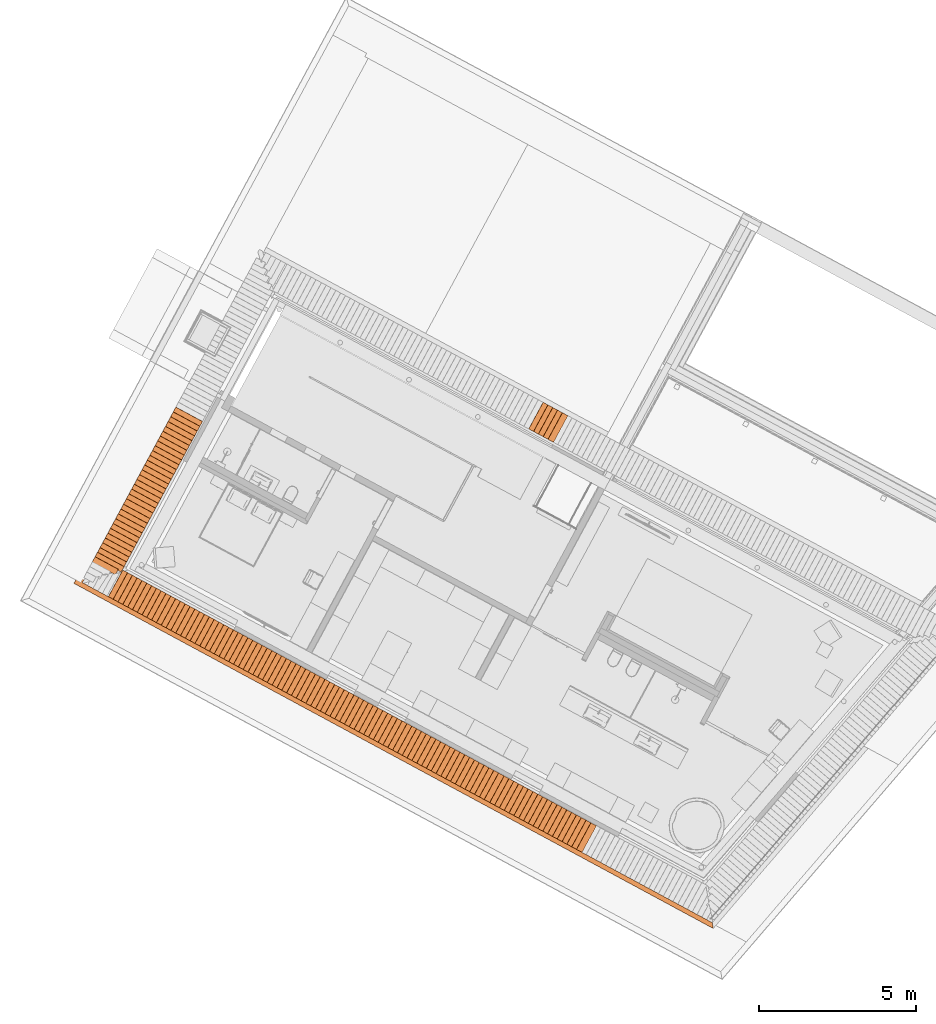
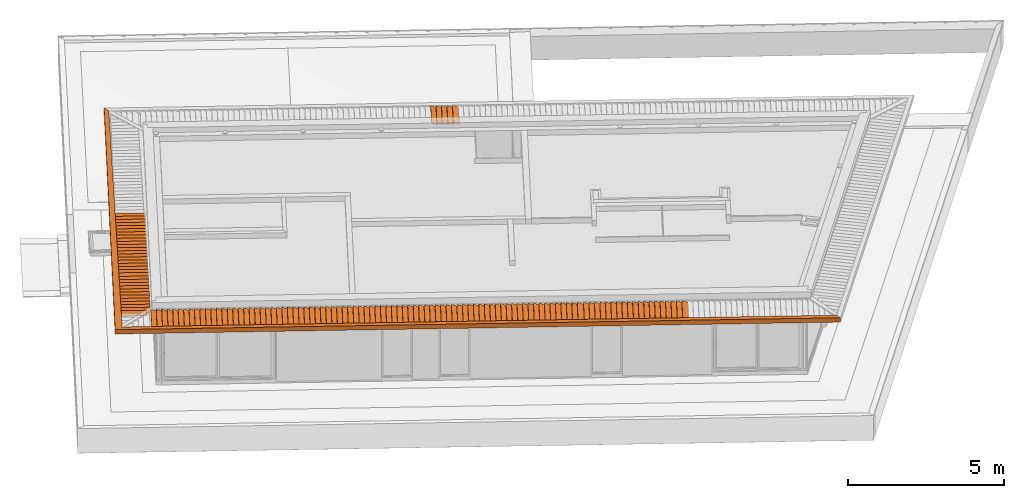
# One storey, part 35 of 48: 136 proxies.
"""IFC2X3 building model written with IfcOpenShell, lengths in metres."""

import ifcopenshell
import ifcopenshell.guid

model = None  # the IFC model being written
_history = None  # IfcOwnerHistory: only IFC2X3 demands one
_inside = {}  # id of a spatial element -> (the spatial element, [elements in it])
_under = {}  # id of a project, library or spatial element -> (it, [spatial elements below it])
_declared = {}  # id of a project -> (the project, [libraries it declares])
_typed = {}  # id of a type object -> (the type object, [elements of that type])
_made_of = {}  # id of a material, layer set ... -> (it, [elements and type objects made of it])


def new_model(schema):
    """Start an empty IFC model of exactly this schema.

    Asked for "IFC4X3", IfcOpenShell would pick the latest addendum, in which some entities
    have other attributes; the version numbers below select the first issue.
    IFC2X3 requires an IfcOwnerHistory on every rooted entity: one is made here for all.
    """
    global model, _history
    if schema == "IFC4X3":
        model = ifcopenshell.file(schema_version=(4, 3, 0, 0))
    else:
        model = ifcopenshell.file(schema=schema)
    _inside.clear()
    _under.clear()
    _declared.clear()
    _typed.clear()
    _made_of.clear()
    _history = None
    if model.schema == "IFC2X3":
        org = make("IfcOrganization", Name="unknown")
        user = make(
            "IfcPersonAndOrganization",
            ThePerson=make("IfcPerson", FamilyName="unknown"),
            TheOrganization=org,
        )
        app = make(
            "IfcApplication",
            ApplicationDeveloper=org,
            Version="unknown",
            ApplicationFullName="unknown",
            ApplicationIdentifier="unknown",
        )
        _history = make(
            "IfcOwnerHistory",
            OwningUser=user,
            OwningApplication=app,
            ChangeAction="ADDED",
            CreationDate=0,
        )
    return model


def make(cls, **values):
    """One entity of the class cls with the attributes given. An attribute that is None is left unset."""
    return model.create_entity(
        cls, **{name: value for name, value in values.items() if value is not None}
    )


def entity(cls, *values):
    """Any entity or typed value of the class cls, its attributes in the order of the schema. None: left unset."""
    e = model.create_entity(cls)
    for i, value in enumerate(values):
        if value is not None:
            e[i] = value
    return e


def rooted(cls, **values):
    """An entity with a GlobalId (a new one), such as an element, a storey or a relation."""
    return make(cls, GlobalId=ifcopenshell.guid.new(), OwnerHistory=_history, **values)


def si_unit(unit_type, name, prefix=None):
    """IfcSIUnit, for example si_unit("LENGTHUNIT", "METRE", prefix="MILLI")."""
    return make("IfcSIUnit", UnitType=unit_type, Prefix=prefix, Name=name)


def converted_unit(unit_type, name, factor, base, dimensions=None, offset=None):
    """IfcConversionBasedUnit, such as the inch: factor (a typed value) times the base unit."""
    return make(
        "IfcConversionBasedUnit"
        if offset is None
        else "IfcConversionBasedUnitWithOffset",
        ConversionOffset=offset,
        Dimensions=None
        if dimensions is None
        else entity("IfcDimensionalExponents", *dimensions),
        UnitType=unit_type,
        Name=name,
        ConversionFactor=make(
            "IfcMeasureWithUnit", ValueComponent=factor, UnitComponent=base
        ),
    )


def derived_unit(unit_type, elements):
    """IfcDerivedUnit: a product of units, each with its exponent."""
    return make(
        "IfcDerivedUnit",
        Elements=[
            make("IfcDerivedUnitElement", Unit=unit, Exponent=power)
            for unit, power in elements
        ],
        UnitType=unit_type,
    )


def money_unit(currency):
    """IfcMonetaryUnit."""
    return make("IfcMonetaryUnit", Currency=currency)


def assignment(units):
    """IfcUnitAssignment: the units of a project."""
    return None if units is None else make("IfcUnitAssignment", Units=units)


def point(xyz):
    """IfcCartesianPoint."""
    return None if xyz is None else make("IfcCartesianPoint", Coordinates=xyz)


def direction(xyz):
    """IfcDirection."""
    return None if xyz is None else make("IfcDirection", DirectionRatios=xyz)


def frame(location, z_axis=None, x_axis=None):
    """IfcAxis2Placement3D, a coordinate frame: its origin and axes. An axis left out is left unset."""
    return make(
        "IfcAxis2Placement3D",
        Location=point(location),
        Axis=direction(z_axis),
        RefDirection=direction(x_axis),
    )


def origin_with_axes():
    """The frame at (0, 0, 0) with the z axis (0, 0, 1) and the x axis (1, 0, 0) written out."""
    return frame((0.0, 0.0, 0.0), z_axis=(0.0, 0.0, 1.0), x_axis=(1.0, 0.0, 0.0))


def place(relative_to, where):
    """IfcLocalPlacement: puts the frame where relative to a parent placement (None: the world)."""
    return make(
        "IfcLocalPlacement", PlacementRelTo=relative_to, RelativePlacement=where
    )


def context(
    kind, dimensions, precision=None, world=None, true_north=None, identifier=None
):
    """IfcGeometricRepresentationContext, for example the 3D "Model" context."""
    return make(
        "IfcGeometricRepresentationContext",
        ContextIdentifier=identifier,
        ContextType=kind,
        CoordinateSpaceDimension=dimensions,
        Precision=precision,
        WorldCoordinateSystem=world,
        TrueNorth=true_north,
    )


def subcontext(parent, identifier, kind, view, scale=None):
    """IfcGeometricRepresentationSubContext, for example "Body" below "Model"."""
    return make(
        "IfcGeometricRepresentationSubContext",
        ContextIdentifier=identifier,
        ContextType=kind,
        ParentContext=parent,
        TargetScale=scale,
        TargetView=view,
    )


def project(units=None, contexts=None):
    """IfcProject with its units and contexts."""
    return rooted(
        "IfcProject",
        Name="project",
        RepresentationContexts=contexts,
        UnitsInContext=assignment(units),
    )


def spatial(cls, under=None, at=None, **own):
    """A site, building, storey or space (cls), placed at a placement, below another one or the project."""
    s = rooted(cls, ObjectPlacement=at, **own)
    if under is not None:
        _under.setdefault(under.id(), (under, []))[1].append(s)
    return s


def polyline(points):
    """IfcPolyline through the points."""
    return make("IfcPolyline", Points=[point(p) for p in points])


def outline(outer, holes=None, kind="AREA"):
    """IfcArbitraryClosedProfileDef: a profile drawn as a closed curve; with holes, ...WithVoids."""
    if holes is None:
        return make("IfcArbitraryClosedProfileDef", ProfileType=kind, OuterCurve=outer)
    return make(
        "IfcArbitraryProfileDefWithVoids",
        ProfileType=kind,
        OuterCurve=outer,
        InnerCurves=holes,
    )


def extrude(swept, where, along, depth):
    """IfcExtrudedAreaSolid: the profile swept, set in the frame where, extruded along a direction by depth."""
    return make(
        "IfcExtrudedAreaSolid",
        SweptArea=swept,
        Position=where,
        ExtrudedDirection=direction(along),
        Depth=depth,
    )


def faces_of(points, faces, orient=None, outer=None):
    """IfcFace entities. A face is a list of loops; a loop is a list of indices into points, from 0.

    orient and outer hold one flag for each loop. By default every Orientation is true, the
    first loop of a face is its IfcFaceOuterBound and the others are IfcFaceBound.
    """
    made = []
    for i, loops in enumerate(faces):
        bounds = []
        for j, loop in enumerate(loops):
            is_outer = j == 0 if outer is None else outer[i][j]
            bounds.append(
                make(
                    "IfcFaceOuterBound" if is_outer else "IfcFaceBound",
                    Bound=make("IfcPolyLoop", Polygon=[points[k] for k in loop]),
                    Orientation=True if orient is None else orient[i][j],
                )
            )
        made.append(make("IfcFace", Bounds=bounds))
    return made


def faceted_brep(points, faces, orient=None, outer=None, voids=None):
    """IfcFacetedBrep: a solid bounded by flat faces; with voids (closed shells), ...WithVoids."""
    shared = [point(p) for p in points]
    hull = make("IfcClosedShell", CfsFaces=faces_of(shared, faces, orient, outer))
    if voids is None:
        return make("IfcFacetedBrep", Outer=hull)
    return make(
        "IfcFacetedBrepWithVoids",
        Outer=hull,
        Voids=[
            make(cls, CfsFaces=faces_of(shared, fs, o, b)) for cls, fs, o, b in voids
        ],
    )


def shape(context_of_items, identifier, shape_type, items):
    """IfcShapeRepresentation: the items that make up one representation, for example the "Body"."""
    return make(
        "IfcShapeRepresentation",
        ContextOfItems=context_of_items,
        RepresentationIdentifier=identifier,
        RepresentationType=shape_type,
        Items=items,
    )


def source(mapping_origin, context_of_items, identifier, shape_type, items):
    """IfcRepresentationMap: a shape defined once, which mapped items show again and again."""
    return make(
        "IfcRepresentationMap",
        MappingOrigin=mapping_origin,
        MappedRepresentation=shape(context_of_items, identifier, shape_type, items),
    )


def transform(
    local_origin,
    x_axis=None,
    y_axis=None,
    z_axis=None,
    scale=None,
    scale2=None,
    scale3=None,
    uniform=True,
):
    """IfcCartesianTransformationOperator3D, or its non-uniform kind. x_axis, y_axis, z_axis: its Axis1, 2, 3."""
    if uniform:
        return make(
            "IfcCartesianTransformationOperator3D",
            Axis1=direction(x_axis),
            Axis2=direction(y_axis),
            LocalOrigin=point(local_origin),
            Scale=scale,
            Axis3=direction(z_axis),
        )
    return make(
        "IfcCartesianTransformationOperator3DnonUniform",
        Axis1=direction(x_axis),
        Axis2=direction(y_axis),
        LocalOrigin=point(local_origin),
        Scale=scale,
        Axis3=direction(z_axis),
        Scale2=scale2,
        Scale3=scale3,
    )


def mapped(mapping_source, mapping_target):
    """IfcMappedItem: shows the shape of a source again, moved by a transform."""
    return make(
        "IfcMappedItem", MappingSource=mapping_source, MappingTarget=mapping_target
    )


def material(Name=None, Category=None):
    """IfcMaterial."""
    return make("IfcMaterial", Name=Name, Category=Category)


def material_list(materials):
    """IfcMaterialList."""
    return make("IfcMaterialList", Materials=materials)


def made_of(thing, what):
    """Note that an element or type object is made of a material, layer set ...; save() writes the relation."""
    if what is not None:
        _made_of.setdefault(what.id(), (what, []))[1].append(thing)
    return thing


def type_object(cls, material=None, **own):
    """A type object (cls), such as IfcWallType, which elements share."""
    return made_of(rooted(cls, **own), material)


def element(
    cls,
    number,
    at=None,
    inside=None,
    cuts=None,
    type_object=None,
    material=None,
    context=None,
    identifier="Body",
    shape_type=None,
    held_by="IfcProductDefinitionShape",
    body=None,
    shapes=None,
    **own,
):
    """One element of the class cls, such as IfcWall. Its Tag is "e" and its number.

    at: its placement. inside: the storey or other place that contains it. cuts: it is an
    opening in that element (IfcRelVoidsElement). A single representation is given by context,
    identifier, shape_type and body (its items); several are given by shapes. held_by: the class
    of the entity that holds the representations. save() writes the other relations.
    """
    e = rooted(cls, Tag="e%d" % number, ObjectPlacement=at, **own)
    if body is not None:
        shapes = [shape(context, identifier, shape_type, body)]
    if shapes is not None:
        e.Representation = make(held_by, Representations=shapes)
    if inside is not None:
        _inside.setdefault(inside.id(), (inside, []))[1].append(e)
    if cuts is not None:
        rooted(
            "IfcRelVoidsElement", RelatingBuildingElement=cuts, RelatedOpeningElement=e
        )
    if type_object is not None:
        _typed.setdefault(type_object.id(), (type_object, []))[1].append(e)
    return made_of(e, material)


def aggregate(whole, parts):
    """IfcRelAggregates: a whole, such as a stair, and the parts it consists of."""
    return rooted("IfcRelAggregates", RelatingObject=whole, RelatedObjects=parts)


def save(model, path):
    """Write the relations noted so far, then the file.

    IfcRelAggregates (storeys below a building ...), IfcRelContainedInSpatialStructure (elements
    in a storey), IfcRelDefinesByType, IfcRelAssociatesMaterial and IfcRelDeclares: one each for
    every whole, place, type object, material and project.
    """
    for whole, parts in _under.values():
        aggregate(whole, parts)
    for where, things in _inside.values():
        rooted(
            "IfcRelContainedInSpatialStructure",
            RelatedElements=things,
            RelatingStructure=where,
        )
    for kind, things in _typed.values():
        rooted("IfcRelDefinesByType", RelatedObjects=things, RelatingType=kind)
    for what, things in _made_of.values():
        rooted("IfcRelAssociatesMaterial", RelatedObjects=things, RelatingMaterial=what)
    for by, libraries in _declared.values():
        rooted("IfcRelDeclares", RelatingContext=by, RelatedDefinitions=libraries)
    model.write(path)


model = new_model("IFC2X3")

# Units and contexts
model_context = context("Model", 3, precision=1e-05, world=origin_with_axes(), true_north=direction((0.0, 1.0)))
body_context = subcontext(model_context, "Body", "Model", "MODEL_VIEW")
ifc_project = project(units=[si_unit("LENGTHUNIT", "METRE"), si_unit("AREAUNIT", "SQUARE_METRE"), si_unit("VOLUMEUNIT", "CUBIC_METRE"), converted_unit("PLANEANGLEUNIT", "DEGREE", entity("IfcPlaneAngleMeasure", 0.0174532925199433), si_unit("PLANEANGLEUNIT", "RADIAN"), dimensions=[0, 0, 0, 0, 0, 0, 0]), money_unit("EUR"), converted_unit("TIMEUNIT", "Year", entity("IfcTimeMeasure", 31556926.0), si_unit("TIMEUNIT", "SECOND"), dimensions=[0, 0, 1, 0, 0, 0, 0]), si_unit("MASSUNIT", "GRAM", prefix="KILO"), si_unit("THERMODYNAMICTEMPERATUREUNIT", "DEGREE_CELSIUS"), si_unit("LUMINOUSINTENSITYUNIT", "LUMEN"), si_unit("ENERGYUNIT", "JOULE", prefix="MEGA"), derived_unit("THERMALCONDUCTANCEUNIT", [(si_unit("POWERUNIT", "WATT"), 1), (si_unit("LENGTHUNIT", "METRE"), -1), (si_unit("THERMODYNAMICTEMPERATUREUNIT", "KELVIN"), -1)]), derived_unit("SPECIFICHEATCAPACITYUNIT", [(si_unit("ENERGYUNIT", "JOULE"), 1), (si_unit("MASSUNIT", "GRAM", prefix="KILO"), -1), (si_unit("THERMODYNAMICTEMPERATUREUNIT", "KELVIN"), -1)]), derived_unit("MASSDENSITYUNIT", [(si_unit("MASSUNIT", "GRAM", prefix="KILO"), 1), (si_unit("VOLUMEUNIT", "CUBIC_METRE"), -1)])], contexts=[model_context])

# Site, building, storey
site_placement = place(None, frame((-3.949935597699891, 1.740105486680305, 0.0), z_axis=(0.0, 0.0, 1.0), x_axis=(0.8799804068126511, -0.475009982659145, 0.0)))
site = spatial("IfcSite", under=ifc_project, at=site_placement, Name="Gelände", CompositionType="ELEMENT")
building_placement = place(site_placement, origin_with_axes())
building = spatial("IfcBuilding", under=site, at=building_placement, Name="Gebäude", CompositionType="ELEMENT")
storey_placement = place(building_placement, frame((0.0, 0.0, 4.55), z_axis=(0.0, 0.0, 1.0), x_axis=(1.0, 0.0, 0.0)))
storey = spatial("IfcBuildingStorey", under=building, at=storey_placement, Name="Staffelgeschoss", CompositionType="ELEMENT", Elevation=4.55)

# Proxies
ifc_material_1 = material(Name="ALLGEMEIN - BAUTEIL")
building_element_proxy_type_1 = type_object("IfcBuildingElementProxyType", Name="ALLGEMEIN - BAUTEIL", PredefinedType="NOTDEFINED")
shared_shape_1 = source(origin_with_axes(), body_context, "Body", "Brep", [
    faceted_brep([(0.2148913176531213, -0.9669323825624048, 0.0), (0.0, -0.9669000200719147, 0.0), (0.0, 0.0, 0.0), (0.2150369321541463, -3.238441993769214e-05, 0.0), (0.2148913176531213, -0.9669323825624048, 0.009999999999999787), (0.0, -0.9669000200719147, 0.009999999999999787), (0.0, 0.0, 0.009999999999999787), (0.2150369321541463, -3.238441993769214e-05, 0.009999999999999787)], [[[0, 1, 2, 3]], [[1, 0, 4, 5]], [[5, 6, 2, 1]], [[6, 7, 3, 2]], [[4, 0, 3, 7]], [[6, 5, 4, 7]]]),
])
for number, where, z_axis, x_axis, name in (
    (1, (6.438674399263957, 1.096924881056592, 2.903466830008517), (0.3575193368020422, 0.0, 0.933905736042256), (0.933905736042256, 0.0, -0.3575193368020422), "Morph-037"),
    (2, (6.613633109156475, 1.096924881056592, 2.903466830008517), (0.3575193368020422, 0.0, 0.933905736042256), (0.933905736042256, 0.0, -0.3575193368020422), "Morph-037"),
    (3, (6.788591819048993, 1.096924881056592, 2.903466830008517), (0.3575193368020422, 0.0, 0.933905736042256), (0.933905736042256, 0.0, -0.3575193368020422), "Morph-037"),
    (4, (6.963550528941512, 1.096924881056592, 2.903466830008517), (0.3575193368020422, 0.0, 0.933905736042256), (0.933905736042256, 0.0, -0.3575193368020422), "Morph-037"),
    (5, (7.13850923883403, 1.096924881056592, 2.903466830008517), (0.3575193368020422, 0.0, 0.933905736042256), (0.933905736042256, 0.0, -0.3575193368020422), "Morph-037"),
    (6, (7.488426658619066, 1.096924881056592, 2.903466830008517), (0.3575193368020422, 0.0, 0.933905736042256), (0.933905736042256, 0.0, -0.3575193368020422), "Morph-037"),
    (7, (7.313467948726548, 1.096924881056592, 2.903466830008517), (0.3575193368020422, 0.0, 0.933905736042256), (0.933905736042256, 0.0, -0.3575193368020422), "Morph-037"),
    (8, (7.663385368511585, 1.096924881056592, 2.903466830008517), (0.3575193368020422, 0.0, 0.933905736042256), (0.933905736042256, 0.0, -0.3575193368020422), "Morph-037"),
    (9, (7.838344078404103, 1.096924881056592, 2.903466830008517), (0.3575193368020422, 0.0, 0.933905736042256), (0.933905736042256, 0.0, -0.3575193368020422), "Morph-037"),
    (10, (8.188261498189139, 1.096924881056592, 2.903466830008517), (0.3575193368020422, 0.0, 0.933905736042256), (0.933905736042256, 0.0, -0.3575193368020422), "Morph-037"),
    (11, (8.01330278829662, 1.096924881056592, 2.903466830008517), (0.3575193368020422, 0.0, 0.933905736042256), (0.933905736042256, 0.0, -0.3575193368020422), "Morph-037"),
    (12, (8.363220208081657, 1.096924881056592, 2.903466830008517), (0.3575193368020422, 0.0, 0.933905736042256), (0.933905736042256, 0.0, -0.3575193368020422), "Morph-037"),
    (13, (8.538178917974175, 1.096924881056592, 2.903466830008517), (0.3575193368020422, 0.0, 0.933905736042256), (0.933905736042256, 0.0, -0.3575193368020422), "Morph-037"),
    (14, (8.888096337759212, 1.096924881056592, 2.903466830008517), (0.3575193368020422, 0.0, 0.933905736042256), (0.933905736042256, 0.0, -0.3575193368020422), "Morph-037"),
    (15, (8.713137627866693, 1.096924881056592, 2.903466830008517), (0.3575193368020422, 0.0, 0.933905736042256), (0.933905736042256, 0.0, -0.3575193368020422), "Morph-037"),
    (16, (9.06305504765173, 1.096924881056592, 2.903466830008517), (0.3575193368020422, 0.0, 0.933905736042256), (0.933905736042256, 0.0, -0.3575193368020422), "Morph-037"),
    (17, (9.412972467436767, 1.096924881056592, 2.903466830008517), (0.3575193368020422, 0.0, 0.933905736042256), (0.933905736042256, 0.0, -0.3575193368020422), "Morph-037"),
    (18, (9.762889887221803, 1.096924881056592, 2.903466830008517), (0.3575193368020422, 0.0, 0.933905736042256), (0.933905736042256, 0.0, -0.3575193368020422), "Morph-037"),
    (19, (9.587931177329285, 1.096924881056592, 2.903466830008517), (0.3575193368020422, 0.0, 0.933905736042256), (0.933905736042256, 0.0, -0.3575193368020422), "Morph-037"),
    (20, (9.238013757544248, 1.096924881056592, 2.903466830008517), (0.3575193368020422, 0.0, 0.933905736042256), (0.933905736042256, 0.0, -0.3575193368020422), "Morph-037"),
    (21, (10.28776601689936, 1.096924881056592, 2.903466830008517), (0.3575193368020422, 0.0, 0.933905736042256), (0.933905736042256, 0.0, -0.3575193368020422), "Morph-037"),
    (22, (10.11280730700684, 1.096924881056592, 2.903466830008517), (0.3575193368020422, 0.0, 0.933905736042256), (0.933905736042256, 0.0, -0.3575193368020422), "Morph-037"),
    (23, (9.937848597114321, 1.096924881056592, 2.903466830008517), (0.3575193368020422, 0.0, 0.933905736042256), (0.933905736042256, 0.0, -0.3575193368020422), "Morph-037"),
    (24, (10.46272472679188, 1.096924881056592, 2.903466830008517), (0.3575193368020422, 0.0, 0.933905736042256), (0.933905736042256, 0.0, -0.3575193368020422), "Morph-037"),
    (25, (10.81264214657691, 1.096924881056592, 2.903466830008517), (0.3575193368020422, 0.0, 0.933905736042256), (0.933905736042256, 0.0, -0.3575193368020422), "Morph-037"),
    (26, (10.63768343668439, 1.096924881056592, 2.903466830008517), (0.3575193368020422, 0.0, 0.933905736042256), (0.933905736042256, 0.0, -0.3575193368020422), "Morph-037"),
    (27, (10.98760085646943, 1.096924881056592, 2.903466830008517), (0.3575193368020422, 0.0, 0.933905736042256), (0.933905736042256, 0.0, -0.3575193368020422), "Morph-037"),
    (28, (11.33751827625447, 1.096924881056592, 2.903466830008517), (0.3575193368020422, 0.0, 0.933905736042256), (0.933905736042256, 0.0, -0.3575193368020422), "Morph-037"),
    (29, (11.16255956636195, 1.096924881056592, 2.903466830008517), (0.3575193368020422, 0.0, 0.933905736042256), (0.933905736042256, 0.0, -0.3575193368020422), "Morph-037"),
    (30, (11.6874356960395, 1.096924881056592, 2.903466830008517), (0.3575193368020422, 0.0, 0.933905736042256), (0.933905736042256, 0.0, -0.3575193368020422), "Morph-037"),
    (31, (11.51247698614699, 1.096924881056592, 2.903466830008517), (0.3575193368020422, 0.0, 0.933905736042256), (0.933905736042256, 0.0, -0.3575193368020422), "Morph-037"),
    (32, (11.86239440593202, 1.096924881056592, 2.903466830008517), (0.3575193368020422, 0.0, 0.933905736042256), (0.933905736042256, 0.0, -0.3575193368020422), "Morph-037"),
    (33, (12.03735311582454, 1.096924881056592, 2.903466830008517), (0.3575193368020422, 0.0, 0.933905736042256), (0.933905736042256, 0.0, -0.3575193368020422), "Morph-037"),
    (34, (12.38727053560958, 1.096924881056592, 2.903466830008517), (0.3575193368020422, 0.0, 0.933905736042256), (0.933905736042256, 0.0, -0.3575193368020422), "Morph-037"),
    (35, (12.5622292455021, 1.096924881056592, 2.903466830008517), (0.3575193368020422, 0.0, 0.933905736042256), (0.933905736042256, 0.0, -0.3575193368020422), "Morph-037"),
    (36, (12.73718795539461, 1.096924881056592, 2.903466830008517), (0.3575193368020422, 0.0, 0.933905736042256), (0.933905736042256, 0.0, -0.3575193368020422), "Morph-037"),
    (37, (12.21231182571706, 1.096924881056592, 2.903466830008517), (0.3575193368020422, 0.0, 0.933905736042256), (0.933905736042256, 0.0, -0.3575193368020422), "Morph-037"),
    (38, (12.91214666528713, 1.096924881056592, 2.903466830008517), (0.3575193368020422, 0.0, 0.933905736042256), (0.933905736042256, 0.0, -0.3575193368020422), "Morph-037"),
    (39, (13.08710537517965, 1.096924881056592, 2.903466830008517), (0.3575193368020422, 0.0, 0.933905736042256), (0.933905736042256, 0.0, -0.3575193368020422), "Morph-037"),
    (40, (13.43702279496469, 1.096924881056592, 2.903466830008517), (0.3575193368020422, 0.0, 0.933905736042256), (0.933905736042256, 0.0, -0.3575193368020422), "Morph-037"),
    (41, (13.61198150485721, 1.096924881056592, 2.903466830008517), (0.3575193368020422, 0.0, 0.933905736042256), (0.933905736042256, 0.0, -0.3575193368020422), "Morph-037"),
    (42, (13.78694021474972, 1.096924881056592, 2.903466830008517), (0.3575193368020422, 0.0, 0.933905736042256), (0.933905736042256, 0.0, -0.3575193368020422), "Morph-037"),
    (43, (13.96189892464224, 1.096924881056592, 2.903466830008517), (0.3575193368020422, 0.0, 0.933905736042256), (0.933905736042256, 0.0, -0.3575193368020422), "Morph-037"),
    (44, (14.13685763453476, 1.096924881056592, 2.903466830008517), (0.3575193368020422, 0.0, 0.933905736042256), (0.933905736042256, 0.0, -0.3575193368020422), "Morph-037"),
    (45, (14.31181634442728, 1.096924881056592, 2.903466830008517), (0.3575193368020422, 0.0, 0.933905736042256), (0.933905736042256, 0.0, -0.3575193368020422), "Morph-037"),
    (46, (14.4867750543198, 1.096924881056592, 2.903466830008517), (0.3575193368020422, 0.0, 0.933905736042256), (0.933905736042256, 0.0, -0.3575193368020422), "Morph-037"),
    (47, (14.83669247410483, 1.096924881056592, 2.903466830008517), (0.3575193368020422, 0.0, 0.933905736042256), (0.933905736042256, 0.0, -0.3575193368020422), "Morph-037"),
    (48, (15.01165118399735, 1.096924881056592, 2.903466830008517), (0.3575193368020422, 0.0, 0.933905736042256), (0.933905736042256, 0.0, -0.3575193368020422), "Morph-037"),
    (49, (14.66173376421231, 1.096924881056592, 2.903466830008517), (0.3575193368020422, 0.0, 0.933905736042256), (0.933905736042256, 0.0, -0.3575193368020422), "Morph-037"),
    (50, (15.18660989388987, 1.096924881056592, 2.903466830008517), (0.3575193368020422, 0.0, 0.933905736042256), (0.933905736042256, 0.0, -0.3575193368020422), "Morph-037"),
    (51, (15.53652731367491, 1.096924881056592, 2.903466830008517), (0.3575193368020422, 0.0, 0.933905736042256), (0.933905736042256, 0.0, -0.3575193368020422), "Morph-037"),
    (52, (15.36156860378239, 1.096924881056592, 2.903466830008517), (0.3575193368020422, 0.0, 0.933905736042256), (0.933905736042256, 0.0, -0.3575193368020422), "Morph-037"),
    (53, (15.71148602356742, 1.096924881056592, 2.903466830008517), (0.3575193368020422, 0.0, 0.933905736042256), (0.933905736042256, 0.0, -0.3575193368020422), "Morph-037"),
    (54, (15.88644473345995, 1.096924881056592, 2.903466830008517), (0.3575193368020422, 0.0, 0.933905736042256), (0.933905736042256, 0.0, -0.3575193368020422), "Morph-037"),
    (55, (16.06140344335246, 1.096924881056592, 2.903466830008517), (0.3575193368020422, 0.0, 0.933905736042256), (0.933905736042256, 0.0, -0.3575193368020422), "Morph-037"),
    (56, (16.23636215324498, 1.096924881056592, 2.903466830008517), (0.3575193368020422, 0.0, 0.933905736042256), (0.933905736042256, 0.0, -0.3575193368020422), "Morph-037"),
    (57, (16.4113208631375, 1.096924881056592, 2.903466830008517), (0.3575193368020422, 0.0, 0.933905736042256), (0.933905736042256, 0.0, -0.3575193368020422), "Morph-037"),
    (58, (16.58627957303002, 1.096924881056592, 2.903466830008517), (0.3575193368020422, 0.0, 0.933905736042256), (0.933905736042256, 0.0, -0.3575193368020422), "Morph-037"),
    (59, (16.76123828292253, 1.096924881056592, 2.903466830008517), (0.3575193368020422, 0.0, 0.933905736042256), (0.933905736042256, 0.0, -0.3575193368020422), "Morph-037"),
    (60, (16.93619699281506, 1.096924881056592, 2.903466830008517), (0.3575193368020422, 0.0, 0.933905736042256), (0.933905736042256, 0.0, -0.3575193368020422), "Morph-037"),
    (61, (13.26206408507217, 1.096924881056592, 2.903466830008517), (0.3575193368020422, 0.0, 0.933905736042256), (0.933905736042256, 0.0, -0.3575193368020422), "Morph-037"),
    (62, (17.11115570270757, 1.096924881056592, 2.903466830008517), (0.3575193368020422, 0.0, 0.933905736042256), (0.933905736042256, 0.0, -0.3575193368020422), "Morph-037"),
    (63, (17.46107312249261, 1.096924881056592, 2.903466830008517), (0.3575193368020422, 0.0, 0.933905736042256), (0.933905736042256, 0.0, -0.3575193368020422), "Morph-037"),
    (64, (17.28611441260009, 1.096924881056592, 2.903466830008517), (0.3575193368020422, 0.0, 0.933905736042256), (0.933905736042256, 0.0, -0.3575193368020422), "Morph-037"),
    (65, (17.81099054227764, 1.096924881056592, 2.903466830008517), (0.3575193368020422, 0.0, 0.933905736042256), (0.933905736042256, 0.0, -0.3575193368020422), "Morph-037"),
    (66, (17.63603183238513, 1.096924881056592, 2.903466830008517), (0.3575193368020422, 0.0, 0.933905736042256), (0.933905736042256, 0.0, -0.3575193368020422), "Morph-037"),
    (67, (18.16090796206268, 1.096924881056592, 2.903466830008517), (0.3575193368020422, 0.0, 0.933905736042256), (0.933905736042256, 0.0, -0.3575193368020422), "Morph-037"),
    (68, (17.98594925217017, 1.096924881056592, 2.903466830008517), (0.3575193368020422, 0.0, 0.933905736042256), (0.933905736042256, 0.0, -0.3575193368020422), "Morph-037"),
    (69, (18.68578409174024, 1.096924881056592, 2.903466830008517), (0.3575193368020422, 0.0, 0.933905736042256), (0.933905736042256, 0.0, -0.3575193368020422), "Morph-037"),
    (70, (18.51082538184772, 1.096924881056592, 2.903466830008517), (0.3575193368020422, 0.0, 0.933905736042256), (0.933905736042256, 0.0, -0.3575193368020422), "Morph-037"),
    (71, (19.06143103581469, 1.096892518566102, 2.903466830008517), (0.3575193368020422, 0.0, 0.933905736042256), (0.933905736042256, 0.0, -0.3575193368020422), "Morph-037"),
    (72, (19.2363897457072, 1.096892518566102, 2.903466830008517), (0.3575193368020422, 0.0, 0.933905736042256), (0.933905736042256, 0.0, -0.3575193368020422), "Morph-037"),
    (73, (19.41134845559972, 1.096892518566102, 2.903466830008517), (0.3575193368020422, 0.0, 0.933905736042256), (0.933905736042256, 0.0, -0.3575193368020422), "Morph-037"),
    (74, (19.58630716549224, 1.096892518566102, 2.903466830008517), (0.3575193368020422, 0.0, 0.933905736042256), (0.933905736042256, 0.0, -0.3575193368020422), "Morph-037"),
    (75, (19.93622458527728, 1.096892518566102, 2.903466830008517), (0.3575193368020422, 0.0, 0.933905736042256), (0.933905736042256, 0.0, -0.3575193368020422), "Morph-037"),
    (76, (19.76126587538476, 1.096892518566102, 2.903466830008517), (0.3575193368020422, 0.0, 0.933905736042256), (0.933905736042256, 0.0, -0.3575193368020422), "Morph-037"),
    (77, (20.11118329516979, 1.096892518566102, 2.903466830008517), (0.3575193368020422, 0.0, 0.933905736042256), (0.933905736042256, 0.0, -0.3575193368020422), "Morph-037"),
    (78, (20.28614200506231, 1.096892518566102, 2.903466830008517), (0.3575193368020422, 0.0, 0.933905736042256), (0.933905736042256, 0.0, -0.3575193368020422), "Morph-037"),
    (79, (20.63605942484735, 1.096892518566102, 2.903466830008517), (0.3575193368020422, 0.0, 0.933905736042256), (0.933905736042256, 0.0, -0.3575193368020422), "Morph-037"),
    (80, (20.46110071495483, 1.096892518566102, 2.903466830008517), (0.3575193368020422, 0.0, 0.933905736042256), (0.933905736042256, 0.0, -0.3575193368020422), "Morph-037"),
    (81, (20.81101813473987, 1.096892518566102, 2.903466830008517), (0.3575193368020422, 0.0, 0.933905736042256), (0.933905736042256, 0.0, -0.3575193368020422), "Morph-037"),
    (82, (20.98597684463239, 1.096892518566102, 2.903466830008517), (0.3575193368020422, 0.0, 0.933905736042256), (0.933905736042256, 0.0, -0.3575193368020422), "Morph-037"),
    (83, (21.33589426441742, 1.096892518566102, 2.903466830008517), (0.3575193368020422, 0.0, 0.933905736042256), (0.933905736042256, 0.0, -0.3575193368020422), "Morph-037"),
    (84, (21.1609355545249, 1.096892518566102, 2.903466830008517), (0.3575193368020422, 0.0, 0.933905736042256), (0.933905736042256, 0.0, -0.3575193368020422), "Morph-037"),
    (85, (21.51085297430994, 1.096892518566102, 2.903466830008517), (0.3575193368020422, 0.0, 0.933905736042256), (0.933905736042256, 0.0, -0.3575193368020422), "Morph-037"),
    (86, (21.68581168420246, 1.096892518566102, 2.903466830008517), (0.3575193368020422, 0.0, 0.933905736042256), (0.933905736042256, 0.0, -0.3575193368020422), "Morph-037"),
    (87, (21.86077039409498, 1.096892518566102, 2.903466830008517), (0.3575193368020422, 0.0, 0.933905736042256), (0.933905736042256, 0.0, -0.3575193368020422), "Morph-037"),
    (88, (22.0357291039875, 1.096892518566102, 2.903466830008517), (0.3575193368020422, 0.0, 0.933905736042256), (0.933905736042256, 0.0, -0.3575193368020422), "Morph-037"),
    (89, (18.3358666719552, 1.096924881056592, 2.903466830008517), (0.3575193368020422, 0.0, 0.933905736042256), (0.933905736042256, 0.0, -0.3575193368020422), "Morph-037"),
    (90, (18.88647232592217, 1.096892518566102, 2.903466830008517), (0.3575193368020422, 0.0, 0.933905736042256), (0.933905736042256, 0.0, -0.3575193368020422), "Morph-037"),
    (91, (5.034057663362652, 5.609881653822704, 2.903466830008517), (0.0, -0.3575193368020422, 0.933905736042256), (0.0, -0.933905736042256, -0.3575193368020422), "Morph-037"),
    (92, (5.034057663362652, 5.784840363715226, 2.903466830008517), (0.0, -0.3575193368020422, 0.933905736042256), (0.0, -0.933905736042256, -0.3575193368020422), "Morph-037"),
    (93, (5.034057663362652, 5.959799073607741, 2.903466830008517), (0.0, -0.3575193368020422, 0.933905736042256), (0.0, -0.933905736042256, -0.3575193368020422), "Morph-037"),
    (94, (6.269082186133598, 1.096924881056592, 2.903466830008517), (0.3575193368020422, 0.0, 0.933905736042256), (0.933905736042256, 0.0, -0.3575193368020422), "Morph-037"),
    (95, (5.03402530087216, 1.21695218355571, 2.903466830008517), (0.0, -0.3575193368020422, 0.933905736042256), (0.0, -0.933905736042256, -0.3575193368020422), "Morph-037"),
    (96, (5.034025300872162, 2.434895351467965, 2.903466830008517), (0.0, -0.3575193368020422, 0.933905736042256), (0.0, -0.933905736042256, -0.3575193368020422), "Morph-037"),
    (97, (5.034025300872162, 2.609854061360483, 2.903466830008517), (0.0, -0.3575193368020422, 0.933905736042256), (0.0, -0.933905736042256, -0.3575193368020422), "Morph-037"),
    (98, (5.034025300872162, 2.784812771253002, 2.903466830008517), (0.0, -0.3575193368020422, 0.933905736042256), (0.0, -0.933905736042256, -0.3575193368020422), "Morph-037"),
    (99, (5.034057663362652, 3.160459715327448, 2.903466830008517), (0.0, -0.3575193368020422, 0.933905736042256), (0.0, -0.933905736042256, -0.3575193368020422), "Morph-037"),
    (100, (5.034057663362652, 3.33541842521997, 2.903466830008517), (0.0, -0.3575193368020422, 0.933905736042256), (0.0, -0.933905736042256, -0.3575193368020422), "Morph-037"),
    (101, (5.034057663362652, 3.510377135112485, 2.903466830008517), (0.0, -0.3575193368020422, 0.933905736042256), (0.0, -0.933905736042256, -0.3575193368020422), "Morph-037"),
    (102, (5.034057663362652, 3.860294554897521, 2.903466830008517), (0.0, -0.3575193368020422, 0.933905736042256), (0.0, -0.933905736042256, -0.3575193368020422), "Morph-037"),
    (103, (5.034057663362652, 3.685335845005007, 2.903466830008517), (0.0, -0.3575193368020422, 0.933905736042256), (0.0, -0.933905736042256, -0.3575193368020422), "Morph-037"),
    (104, (5.034057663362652, 4.035253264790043, 2.903466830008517), (0.0, -0.3575193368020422, 0.933905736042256), (0.0, -0.933905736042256, -0.3575193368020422), "Morph-037"),
    (105, (5.034057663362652, 4.38517068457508, 2.903466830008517), (0.0, -0.3575193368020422, 0.933905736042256), (0.0, -0.933905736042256, -0.3575193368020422), "Morph-037"),
    (106, (5.034057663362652, 4.210211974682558, 2.903466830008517), (0.0, -0.3575193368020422, 0.933905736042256), (0.0, -0.933905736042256, -0.3575193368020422), "Morph-037"),
    (107, (5.034057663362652, 4.560129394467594, 2.903466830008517), (0.0, -0.3575193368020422, 0.933905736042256), (0.0, -0.933905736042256, -0.3575193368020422), "Morph-037"),
    (108, (5.034057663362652, 4.735088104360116, 2.903466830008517), (0.0, -0.3575193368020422, 0.933905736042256), (0.0, -0.933905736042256, -0.3575193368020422), "Morph-037"),
    (109, (5.034057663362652, 5.085005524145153, 2.903466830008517), (0.0, -0.3575193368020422, 0.933905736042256), (0.0, -0.933905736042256, -0.3575193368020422), "Morph-037"),
    (110, (5.034057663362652, 4.910046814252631, 2.903466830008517), (0.0, -0.3575193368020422, 0.933905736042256), (0.0, -0.933905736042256, -0.3575193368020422), "Morph-037"),
    (111, (5.034057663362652, 5.434922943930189, 2.903466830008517), (0.0, -0.3575193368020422, 0.933905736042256), (0.0, -0.933905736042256, -0.3575193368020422), "Morph-037"),
    (112, (5.034025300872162, 2.259936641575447, 2.903466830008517), (0.0, -0.3575193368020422, 0.933905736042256), (0.0, -0.933905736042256, -0.3575193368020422), "Morph-037"),
    (113, (5.034025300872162, 2.084977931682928, 2.903466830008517), (0.0, -0.3575193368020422, 0.933905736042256), (0.0, -0.933905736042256, -0.3575193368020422), "Morph-037"),
    (114, (5.034025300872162, 1.91001922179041, 2.903466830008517), (0.0, -0.3575193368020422, 0.933905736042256), (0.0, -0.933905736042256, -0.3575193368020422), "Morph-037"),
    (115, (5.034057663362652, 5.259964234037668, 2.903466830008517), (0.0, -0.3575193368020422, 0.933905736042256), (0.0, -0.933905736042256, -0.3575193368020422), "Morph-037"),
    (116, (5.03402530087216, 1.735060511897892, 2.903466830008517), (0.0, -0.3575193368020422, 0.933905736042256), (0.0, -0.933905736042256, -0.3575193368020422), "Morph-037"),
    (117, (5.03402530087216, 1.560101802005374, 2.903466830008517), (0.0, -0.3575193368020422, 0.933905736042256), (0.0, -0.933905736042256, -0.3575193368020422), "Morph-037"),
    (118, (5.03402530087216, 1.385143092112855, 2.903466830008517), (0.0, -0.3575193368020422, 0.933905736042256), (0.0, -0.933905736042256, -0.3575193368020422), "Morph-037"),
    (119, (5.034025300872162, 2.95977148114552, 2.903466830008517), (0.0, -0.3575193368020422, 0.933905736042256), (0.0, -0.933905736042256, -0.3575193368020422), "Morph-037"),
    (120, (5.034057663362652, 6.484675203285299, 2.903466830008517), (0.0, -0.3575193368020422, 0.933905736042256), (0.0, -0.933905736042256, -0.3575193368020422), "Morph-037"),
    (121, (5.034057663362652, 6.134757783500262, 2.903466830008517), (0.0, -0.3575193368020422, 0.933905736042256), (0.0, -0.933905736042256, -0.3575193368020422), "Morph-037"),
    (122, (5.034057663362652, 6.309716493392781, 2.903466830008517), (0.0, -0.3575193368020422, 0.933905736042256), (0.0, -0.933905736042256, -0.3575193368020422), "Morph-037"),
    (123, (14.31360490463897, 12.18825268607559, 2.903466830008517), (0.3575193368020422, 0.0, 0.933905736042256), (0.933905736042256, 0.0, -0.3575193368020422), "Morph-037"),
    (124, (14.48856361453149, 12.18825268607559, 2.903466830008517), (0.3575193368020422, 0.0, 0.933905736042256), (0.933905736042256, 0.0, -0.3575193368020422), "Morph-037"),
    (125, (14.66352232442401, 12.18825268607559, 2.903466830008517), (0.3575193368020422, 0.0, 0.933905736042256), (0.933905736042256, 0.0, -0.3575193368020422), "Morph-037"),
    (126, (14.83848103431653, 12.18825268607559, 2.903466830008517), (0.3575193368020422, 0.0, 0.933905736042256), (0.933905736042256, 0.0, -0.3575193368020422), "Morph-037"),
    (127, (15.01343974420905, 12.18825268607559, 2.903466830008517), (0.3575193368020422, 0.0, 0.933905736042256), (0.933905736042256, 0.0, -0.3575193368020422), "Morph-037"),
    (128, (5.04437121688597, 1.096924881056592, 2.903466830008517), (0.3575193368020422, 0.0, 0.933905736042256), (0.933905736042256, 0.0, -0.3575193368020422), "Morph-037"),
    (129, (5.219329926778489, 1.096924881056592, 2.903466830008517), (0.3575193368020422, 0.0, 0.933905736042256), (0.933905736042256, 0.0, -0.3575193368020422), "Morph-037"),
    (130, (5.394288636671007, 1.096924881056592, 2.903466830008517), (0.3575193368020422, 0.0, 0.933905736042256), (0.933905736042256, 0.0, -0.3575193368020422), "Morph-037"),
    (131, (5.569247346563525, 1.096924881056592, 2.903466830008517), (0.3575193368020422, 0.0, 0.933905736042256), (0.933905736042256, 0.0, -0.3575193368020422), "Morph-037"),
    (132, (5.744206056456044, 1.096924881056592, 2.903466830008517), (0.3575193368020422, 0.0, 0.933905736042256), (0.933905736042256, 0.0, -0.3575193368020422), "Morph-037"),
    (133, (5.919164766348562, 1.096924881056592, 2.903466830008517), (0.3575193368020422, 0.0, 0.933905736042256), (0.933905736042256, 0.0, -0.3575193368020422), "Morph-037"),
    (134, (6.09412347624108, 1.096924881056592, 2.903466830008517), (0.3575193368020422, 0.0, 0.933905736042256), (0.933905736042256, 0.0, -0.3575193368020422), "Morph-037"),
):
    element("IfcBuildingElementProxy", number, at=place(storey_placement, frame(where, z_axis=z_axis, x_axis=x_axis)), inside=storey, type_object=building_element_proxy_type_1, material=ifc_material_1, Name=name, context=body_context, shape_type="MappedRepresentation", body=[
        mapped(shared_shape_1, transform((0.0, 0.0, 0.0))),
    ])
shared_shape_2 = source(origin_with_axes(), body_context, "Body", "Brep", [
    faceted_brep([(-5.340442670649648e-05, -0.3143936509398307, -1.305102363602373e-05), (-2.435784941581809e-05, -0.1215204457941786, -1.305102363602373e-05), (0.2150125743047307, -0.1215528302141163, -1.305102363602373e-05), (0.2148913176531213, -0.9669323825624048, 0.0), (0.0, -0.9669000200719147, 0.0), (-5.340442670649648e-05, -0.3143936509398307, 0.00998694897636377), (-2.435784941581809e-05, -0.1215204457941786, 0.00998694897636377), (0.2150125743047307, -0.1215528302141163, 0.00998694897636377), (0.2148913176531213, -0.9669323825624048, 0.009999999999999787), (0.0, -0.9669000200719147, 0.009999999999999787)], [[[0, 1, 2, 3, 4]], [[0, 5, 6, 1]], [[1, 6, 7, 2]], [[8, 3, 2, 7]], [[3, 8, 9, 4]], [[9, 5, 0, 4]], [[5, 9, 8, 7, 6]]]),
])
proxy_1_placement = place(storey_placement, frame((5.033951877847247, 1.052873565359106, 2.903466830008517), z_axis=(0.0, -0.3575193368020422, 0.933905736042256), x_axis=(0.0, -0.933905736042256, -0.3575193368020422)))
element("IfcBuildingElementProxy", 135, at=proxy_1_placement, inside=storey, type_object=building_element_proxy_type_1, material=ifc_material_1, Name="Morph-037", context=body_context, shape_type="MappedRepresentation", body=[
    mapped(shared_shape_2, transform((0.0, 0.0, 0.0))),
])
ifc_material_2 = material(Name="Dämmung, hart EPS")
ifc_material_3 = material(Name="Sperrschicht, Folie")
ifc_material_4 = material(Name="Estrich")
ifc_material_5 = material(Name="Kleber")
ifc_material_6 = material(Name="Beton, Leichtbeton")
ifc_material_list = material_list([ifc_material_2, ifc_material_3, ifc_material_4, ifc_material_5, ifc_material_6])
building_element_proxy_type_2 = type_object("IfcBuildingElementProxyType", Name="BO | Dämmung 8+Folie+Estrich 7+Fliese 0,5 | 16cm 170", PredefinedType="NOTDEFINED")
proxy_2_placement = place(storey_placement, frame((3.876178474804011, 12.34280286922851, 2.75), z_axis=(0.0, 0.0, 1.0), x_axis=(1.0, 0.0, 0.0)))
element("IfcBuildingElementProxy", 136, at=proxy_2_placement, inside=storey, type_object=building_element_proxy_type_2, material=ifc_material_list, Name="Decke028", context=body_context, shape_type="SweptSolid", body=[
    extrude(outline(polyline([(0.0, 0.0), (0.0, -12.36161132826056), (23.20367200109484, -12.36162825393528), (23.08735351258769, -12.21279299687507), (0.2299842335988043, -12.21277632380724), (0.1476966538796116, -0.1617451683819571), (0.0, 0.0)])), origin_with_axes(), (0.0, 0.0, 1.0), 0.08),
    extrude(outline(polyline([(0.0, 0.0), (0.0, -12.36161132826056), (23.20367200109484, -12.36162825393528), (23.08735351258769, -12.21279299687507), (0.2299842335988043, -12.21277632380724), (0.1476966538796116, -0.1617451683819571), (0.0, 0.0)])), frame((0.0, 0.0, 0.08), z_axis=(0.0, 0.0, 1.0), x_axis=(1.0, 0.0, 0.0)), (0.0, 0.0, 1.0), 0.0),
    extrude(outline(polyline([(0.0, 0.0), (0.0, -12.36161132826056), (23.20367200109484, -12.36162825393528), (23.08735351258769, -12.21279299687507), (0.2299842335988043, -12.21277632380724), (0.1476966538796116, -0.1617451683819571), (0.0, 0.0)])), frame((0.0, 0.0, 0.08), z_axis=(0.0, 0.0, 1.0), x_axis=(1.0, 0.0, 0.0)), (0.0, 0.0, 1.0), 0.07),
    extrude(outline(polyline([(0.0, 0.0), (0.0, -12.36161132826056), (23.20367200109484, -12.36162825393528), (23.08735351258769, -12.21279299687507), (0.2299842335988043, -12.21277632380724), (0.1476966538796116, -0.1617451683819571), (0.0, 0.0)])), frame((0.0, 0.0, 0.15), z_axis=(0.0, 0.0, 1.0), x_axis=(1.0, 0.0, 0.0)), (0.0, 0.0, 1.0), 0.01),
    extrude(outline(polyline([(0.0, 0.0), (0.0, -12.36161132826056), (23.20367200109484, -12.36162825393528), (23.08735351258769, -12.21279299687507), (0.2299842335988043, -12.21277632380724), (0.1476966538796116, -0.1617451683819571), (0.0, 0.0)])), frame((0.0, 0.0, 0.16), z_axis=(0.0, 0.0, 1.0), x_axis=(1.0, 0.0, 0.0)), (0.0, 0.0, 1.0), 0.01),
])

save(model, "model.ifc")
